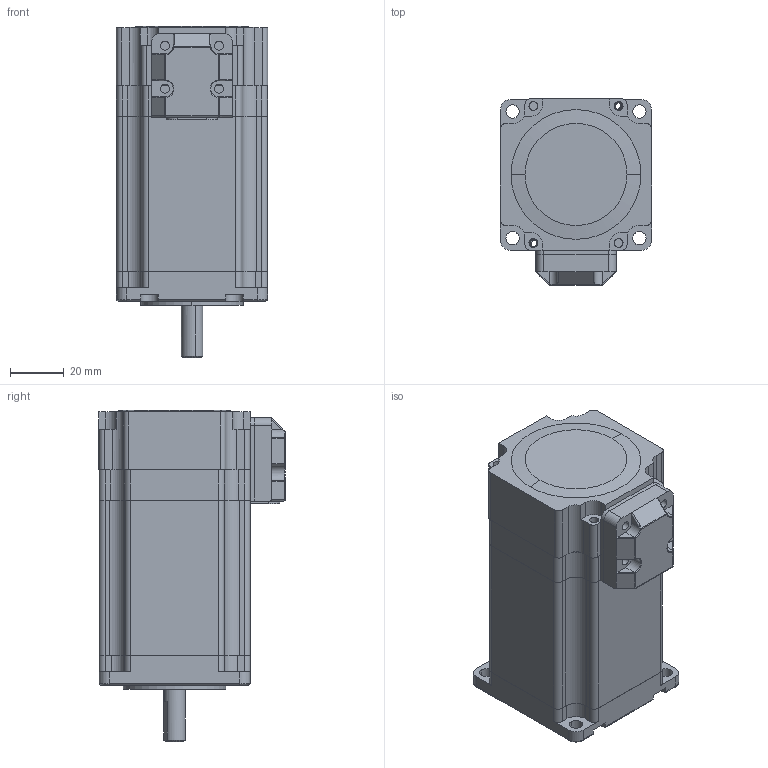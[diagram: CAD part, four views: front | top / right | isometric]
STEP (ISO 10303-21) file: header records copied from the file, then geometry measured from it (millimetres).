
FILE_DESCRIPTION (( 'STEP AP214' ), '1' );
FILE_NAME ('S57-80-3M.STEP', '2024-12-13T03:20:01', ( 'Muse' ), ( 'Muse' ), 'SwSTEP 2.0', 'SolidWorks 2020', '' );
FILE_SCHEMA (( 'AUTOMOTIVE_DESIGN' ));
Length unit declared in the file: millimetre
Products named in the file (9): 隅赽; 60 57邧謂揤盄輸; S57-80-3M; 57綴裔; 57 ヶ裔; 蛌粣; 608 粣創; 57綴欶; 蛌赽郪璃
Assembly tree (9 placements, depth 3):
  S57-80-3M
    57綴裔
    隅赽
    57 ヶ裔
    蛌赽郪璃
      蛌粣
      608 粣創  x2
    57綴欶
    60 57邧謂揤盄輸
Bounding box: 56.3 x 69.3 x 123.2 mm (x, y, z)
Volume: 136037.6 mm3; surface area: 96310.6 mm2
Topology: 17 solids, 17 shells, 956 faces, 2884 edges, 1832 vertices
Faces by surface type: cylinder 426, plane 295, torus 101, sphere 98, bspline 20, cone 16
Entity records: 29339 total; most frequent: CARTESIAN_POINT 6128, DIRECTION 4744, ORIENTED_EDGE 4720, EDGE_CURVE 2360, AXIS2_PLACEMENT_3D 1820, VERTEX_POINT 1540, LINE 1104, VECTOR 1104
